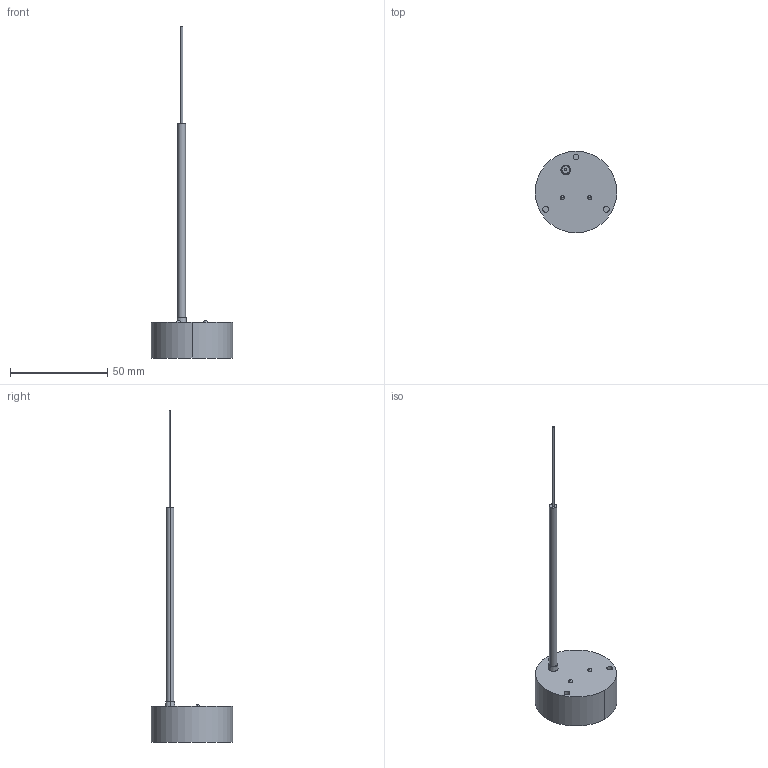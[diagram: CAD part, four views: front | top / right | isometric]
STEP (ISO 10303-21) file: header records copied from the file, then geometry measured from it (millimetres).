
FILE_DESCRIPTION (( 'STEP AP203' ), '1' );
FILE_NAME ('SR10.STEP', '2016-06-21T01:37:14', ( '' ), ( '' ), 'SwSTEP 2.0', 'SolidWorks 2014', '' );
FILE_SCHEMA (( 'CONFIG_CONTROL_DESIGN' ));
Length unit declared in the file: metre
Products named in the file (3): SR10; PRNA10S-#-#-#-FR-line (7); PRNA10S-#-#-#-FR-line (2)
Assembly tree (2 placements, depth 2):
  SR10
    PRNA10S-#-#-#-FR-line (2)
    PRNA10S-#-#-#-FR-line (7)
Bounding box: 42 x 42 x 171 mm (x, y, z)
Volume: 26576.2 mm3; surface area: 6719.8 mm2
Topology: 2 solids, 2 shells, 27 faces, 54 edges, 34 vertices
Faces by surface type: cylinder 12, plane 9, bspline 4, cone 2
Entity records: 1045 total; most frequent: CARTESIAN_POINT 176, DIRECTION 142, ORIENTED_EDGE 100, AXIS2_PLACEMENT_3D 64, EDGE_CURVE 50, CIRCLE 36, EDGE_LOOP 34, VERTEX_POINT 34
